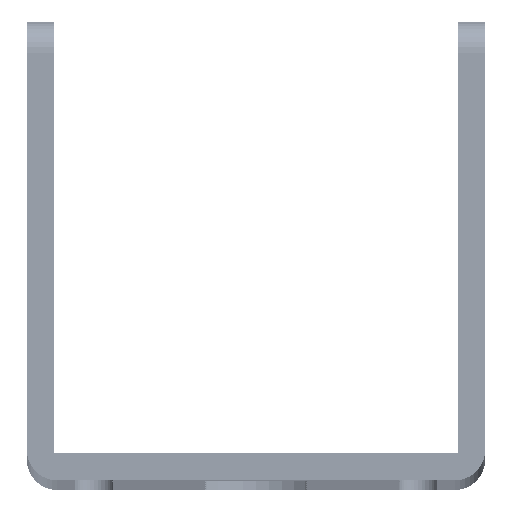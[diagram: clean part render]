
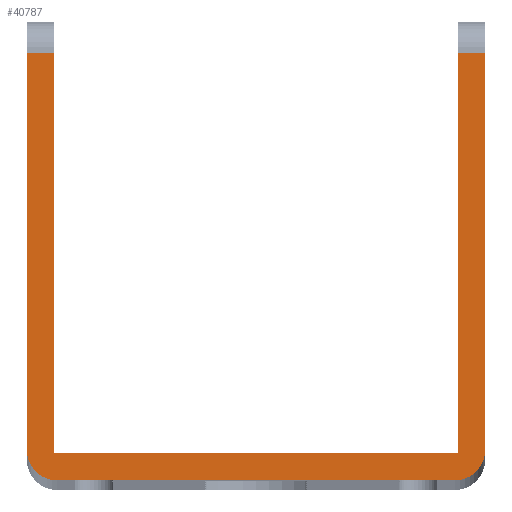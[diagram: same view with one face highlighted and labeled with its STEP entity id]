
A CAD part, top view. The second image highlights one B-rep face of the part: STEP entity #40787.
In plain terms, the highlighted planar face has unit normal (0, 0, 1).
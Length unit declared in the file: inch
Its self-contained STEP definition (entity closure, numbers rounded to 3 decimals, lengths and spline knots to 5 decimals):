
#112 = VERTEX_POINT ( 'NONE', #22986 ) ;
#259 = AXIS2_PLACEMENT_3D ( 'NONE', #21532, #55947, #26489 ) ;
#509 = DIRECTION ( 'NONE',  ( 0., 0., 1. ) ) ;
#621 = VERTEX_POINT ( 'NONE', #51736 ) ;
#651 = AXIS2_PLACEMENT_3D ( 'NONE', #29919, #509, #34854 ) ;
#1288 = EDGE_CURVE ( 'NONE', #26464, #31984, #45191, .T. ) ;
#1464 = CARTESIAN_POINT ( 'NONE',  ( 0., 1.4, 18. ) ) ;
#2565 = CARTESIAN_POINT ( 'NONE',  ( 0., 1.4, 18. ) ) ;
#3949 = LINE ( 'NONE', #1464, #17011 ) ;
#6533 = EDGE_CURVE ( 'NONE', #31984, #56251, #63489, .T. ) ;
#6995 = VECTOR ( 'NONE', #62944, 39.37008 ) ;
#7456 = VECTOR ( 'NONE', #39237, 39.37008 ) ;
#7521 = ORIENTED_EDGE ( 'NONE', *, *, #57220, .T. ) ;
#8534 = LINE ( 'NONE', #53467, #6995 ) ;
#9067 = EDGE_CURVE ( 'NONE', #13948, #112, #3949, .T. ) ;
#9366 = VERTEX_POINT ( 'NONE', #38192 ) ;
#9686 = FACE_OUTER_BOUND ( 'NONE', #57544, .T. ) ;
#10841 = VECTOR ( 'NONE', #35807, 39.37008 ) ;
#13948 = VERTEX_POINT ( 'NONE', #52697 ) ;
#16255 = CARTESIAN_POINT ( 'NONE',  ( 1.5, 0., 18. ) ) ;
#16449 = ORIENTED_EDGE ( 'NONE', *, *, #36039, .T. ) ;
#17011 = VECTOR ( 'NONE', #35827, 39.37008 ) ;
#20209 = CARTESIAN_POINT ( 'NONE',  ( 0., 1.4, 18. ) ) ;
#20220 = CARTESIAN_POINT ( 'NONE',  ( 0., 0., 18. ) ) ;
#21532 = CARTESIAN_POINT ( 'NONE',  ( 1.4, 0.1, 18. ) ) ;
#21620 = LINE ( 'NONE', #20220, #46268 ) ;
#22482 = ORIENTED_EDGE ( 'NONE', *, *, #53458, .T. ) ;
#22986 = CARTESIAN_POINT ( 'NONE',  ( 1.41, 1.4, 18. ) ) ;
#23482 = ORIENTED_EDGE ( 'NONE', *, *, #1288, .T. ) ;
#25172 = ORIENTED_EDGE ( 'NONE', *, *, #59584, .T. ) ;
#25362 = VECTOR ( 'NONE', #39177, 39.37008 ) ;
#25377 = CARTESIAN_POINT ( 'NONE',  ( 0., 0., 18. ) ) ;
#26464 = VERTEX_POINT ( 'NONE', #37933 ) ;
#26489 = DIRECTION ( 'NONE',  ( -1., 0., 0. ) ) ;
#26667 = CARTESIAN_POINT ( 'NONE',  ( 1.5, 0.1, 18. ) ) ;
#27942 = LINE ( 'NONE', #45888, #39535 ) ;
#28442 = LINE ( 'NONE', #48812, #25362 ) ;
#29919 = CARTESIAN_POINT ( 'NONE',  ( 0.1, 0.1, 18. ) ) ;
#30311 = DIRECTION ( 'NONE',  ( -1., 0., 0. ) ) ;
#31984 = VERTEX_POINT ( 'NONE', #35870 ) ;
#34230 = CARTESIAN_POINT ( 'NONE',  ( 0.09, 1.5, 18. ) ) ;
#34854 = DIRECTION ( 'NONE',  ( -1., 0., 0. ) ) ;
#35038 = DIRECTION ( 'NONE',  ( -1., 0., 0. ) ) ;
#35141 = CARTESIAN_POINT ( 'NONE',  ( 0.1, 0., 18. ) ) ;
#35807 = DIRECTION ( 'NONE',  ( 1., 0., 0. ) ) ;
#35827 = DIRECTION ( 'NONE',  ( -1., 0., 0. ) ) ;
#35870 = CARTESIAN_POINT ( 'NONE',  ( 0.09, 1.4, 18. ) ) ;
#36028 = ORIENTED_EDGE ( 'NONE', *, *, #58542, .T. ) ;
#36039 = EDGE_CURVE ( 'NONE', #44420, #13948, #8534, .T. ) ;
#36141 = VERTEX_POINT ( 'NONE', #35141 ) ;
#37268 = EDGE_CURVE ( 'NONE', #56251, #9366, #21620, .T. ) ;
#37319 = VECTOR ( 'NONE', #35038, 39.37008 ) ;
#37933 = CARTESIAN_POINT ( 'NONE',  ( 0.09, 0.09, 18. ) ) ;
#38192 = CARTESIAN_POINT ( 'NONE',  ( 0., 0.1, 18. ) ) ;
#39177 = DIRECTION ( 'NONE',  ( 0., -1., 0. ) ) ;
#39237 = DIRECTION ( 'NONE',  ( 0., 1., 0. ) ) ;
#39407 = ORIENTED_EDGE ( 'NONE', *, *, #37268, .T. ) ;
#39535 = VECTOR ( 'NONE', #50832, 39.37008 ) ;
#40787 = ADVANCED_FACE ( 'NONE', ( #9686 ), #54830, .F. ) ;
#44420 = VERTEX_POINT ( 'NONE', #26667 ) ;
#45157 = CARTESIAN_POINT ( 'NONE',  ( 1.41, 0.09, 18. ) ) ;
#45191 = LINE ( 'NONE', #34230, #7456 ) ;
#45888 = CARTESIAN_POINT ( 'NONE',  ( 0.09, 0.09, 18. ) ) ;
#46268 = VECTOR ( 'NONE', #49690, 39.37008 ) ;
#46910 = ORIENTED_EDGE ( 'NONE', *, *, #9067, .T. ) ;
#47321 = CIRCLE ( 'NONE', #259, 0.1 ) ;
#48812 = CARTESIAN_POINT ( 'NONE',  ( 1.41, 0.09, 18. ) ) ;
#49690 = DIRECTION ( 'NONE',  ( 0., -1., 0. ) ) ;
#50061 = ORIENTED_EDGE ( 'NONE', *, *, #6533, .T. ) ;
#50832 = DIRECTION ( 'NONE',  ( -1., 0., 0. ) ) ;
#51736 = CARTESIAN_POINT ( 'NONE',  ( 1.4, 0., 18. ) ) ;
#52519 = VERTEX_POINT ( 'NONE', #45157 ) ;
#52697 = CARTESIAN_POINT ( 'NONE',  ( 1.5, 1.4, 18. ) ) ;
#53458 = EDGE_CURVE ( 'NONE', #621, #44420, #47321, .T. ) ;
#53467 = CARTESIAN_POINT ( 'NONE',  ( 1.5, 1.5, 18. ) ) ;
#54830 = PLANE ( 'NONE',  #55242 ) ;
#55242 = AXIS2_PLACEMENT_3D ( 'NONE', #25377, #59782, #30311 ) ;
#55947 = DIRECTION ( 'NONE',  ( 0., 0., 1. ) ) ;
#56251 = VERTEX_POINT ( 'NONE', #2565 ) ;
#56634 = CIRCLE ( 'NONE', #651, 0.1 ) ;
#57220 = EDGE_CURVE ( 'NONE', #52519, #26464, #27942, .T. ) ;
#57544 = EDGE_LOOP ( 'NONE', ( #23482, #50061, #39407, #58758, #36028, #22482, #16449, #46910, #25172, #7521 ) ) ;
#58542 = EDGE_CURVE ( 'NONE', #36141, #621, #63207, .T. ) ;
#58758 = ORIENTED_EDGE ( 'NONE', *, *, #60749, .T. ) ;
#59584 = EDGE_CURVE ( 'NONE', #112, #52519, #28442, .T. ) ;
#59782 = DIRECTION ( 'NONE',  ( 0., 0., -1. ) ) ;
#60749 = EDGE_CURVE ( 'NONE', #9366, #36141, #56634, .T. ) ;
#62944 = DIRECTION ( 'NONE',  ( 0., 1., 0. ) ) ;
#63207 = LINE ( 'NONE', #16255, #10841 ) ;
#63489 = LINE ( 'NONE', #20209, #37319 ) ;
